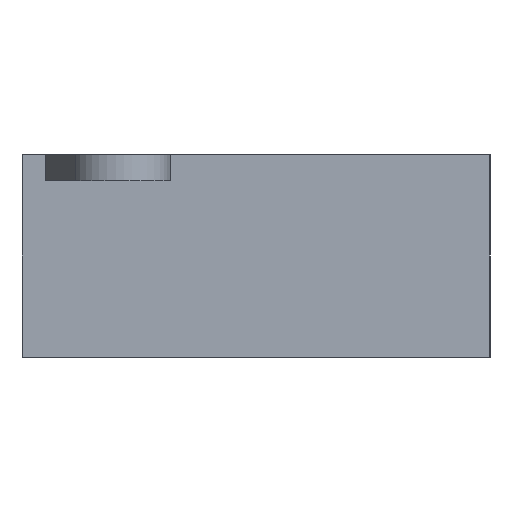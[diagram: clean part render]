
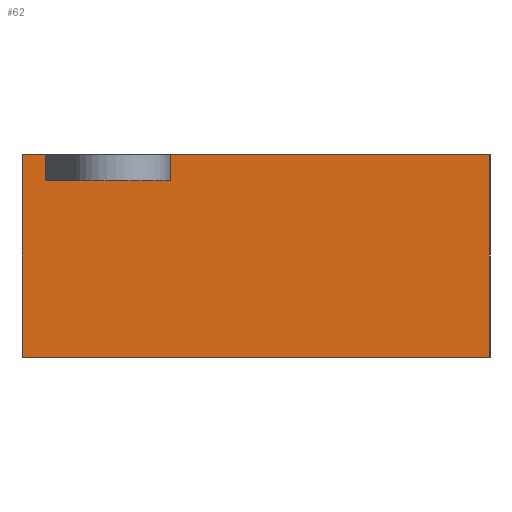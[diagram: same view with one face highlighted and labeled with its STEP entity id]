
A CAD part, left-side view. The second image highlights one B-rep face of the part: STEP entity #62.
In plain terms, the highlighted planar face has unit normal (-1, 0, 0).
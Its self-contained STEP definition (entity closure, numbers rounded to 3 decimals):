
#62 = ADVANCED_FACE( '', ( #124 ), #125, .T. );
#124 = FACE_OUTER_BOUND( '', #185, .T. );
#125 = PLANE( '', #186 );
#185 = EDGE_LOOP( '', ( #296, #297, #298, #299, #300, #301, #302, #303 ) );
#186 = AXIS2_PLACEMENT_3D( '', #304, #305, #306 );
#296 = ORIENTED_EDGE( '', *, *, #387, .F. );
#297 = ORIENTED_EDGE( '', *, *, #393, .T. );
#298 = ORIENTED_EDGE( '', *, *, #372, .T. );
#299 = ORIENTED_EDGE( '', *, *, #396, .F. );
#300 = ORIENTED_EDGE( '', *, *, #357, .F. );
#301 = ORIENTED_EDGE( '', *, *, #364, .T. );
#302 = ORIENTED_EDGE( '', *, *, #390, .T. );
#303 = ORIENTED_EDGE( '', *, *, #397, .F. );
#304 = CARTESIAN_POINT( '', ( 5.87, 17.66, -36.51 ) );
#305 = DIRECTION( '', ( -1., 0., 0. ) );
#306 = DIRECTION( '', ( 0., -1., 0. ) );
#357 = EDGE_CURVE( '', #419, #415, #421, .T. );
#364 = EDGE_CURVE( '', #419, #430, #432, .T. );
#372 = EDGE_CURVE( '', #446, #443, #447, .T. );
#387 = EDGE_CURVE( '', #466, #462, #468, .T. );
#390 = EDGE_CURVE( '', #430, #470, #472, .T. );
#393 = EDGE_CURVE( '', #466, #446, #476, .T. );
#396 = EDGE_CURVE( '', #415, #443, #479, .T. );
#397 = EDGE_CURVE( '', #462, #470, #480, .T. );
#415 = VERTEX_POINT( '', #503 );
#419 = VERTEX_POINT( '', #509 );
#421 = LINE( '', #512, #513 );
#430 = VERTEX_POINT( '', #523 );
#432 = LINE( '', #526, #527 );
#443 = VERTEX_POINT( '', #542 );
#446 = VERTEX_POINT( '', #546 );
#447 = LINE( '', #547, #548 );
#462 = VERTEX_POINT( '', #569 );
#466 = VERTEX_POINT( '', #575 );
#468 = LINE( '', #578, #579 );
#470 = VERTEX_POINT( '', #581 );
#472 = LINE( '', #584, #585 );
#476 = LINE( '', #589, #590 );
#479 = LINE( '', #593, #594 );
#480 = LINE( '', #595, #596 );
#503 = CARTESIAN_POINT( '', ( 5.87, 17.66, 0. ) );
#509 = CARTESIAN_POINT( '', ( 5.87, 17.66, -36.51 ) );
#512 = CARTESIAN_POINT( '', ( 5.87, 17.66, -36.51 ) );
#513 = VECTOR( '', #611, 1000. );
#523 = CARTESIAN_POINT( '', ( 5.87, -66.86, -36.51 ) );
#526 = CARTESIAN_POINT( '', ( 5.87, 17.66, -36.51 ) );
#527 = VECTOR( '', #620, 1000. );
#542 = CARTESIAN_POINT( '', ( 5.87, 13.49, 0. ) );
#546 = CARTESIAN_POINT( '', ( 5.87, 13.49, -4.7 ) );
#547 = CARTESIAN_POINT( '', ( 5.87, 13.49, -4.7 ) );
#548 = VECTOR( '', #626, 1000. );
#569 = CARTESIAN_POINT( '', ( 5.87, -9.11, 0. ) );
#575 = CARTESIAN_POINT( '', ( 5.87, -9.11, -4.7 ) );
#578 = CARTESIAN_POINT( '', ( 5.87, -9.11, -4.7 ) );
#579 = VECTOR( '', #642, 1000. );
#581 = CARTESIAN_POINT( '', ( 5.87, -66.86, 0. ) );
#584 = CARTESIAN_POINT( '', ( 5.87, -66.86, -36.51 ) );
#585 = VECTOR( '', #644, 1000. );
#589 = CARTESIAN_POINT( '', ( 5.87, -9.11, -4.7 ) );
#590 = VECTOR( '', #648, 1000. );
#593 = CARTESIAN_POINT( '', ( 5.87, 17.66, 0. ) );
#594 = VECTOR( '', #652, 1000. );
#595 = CARTESIAN_POINT( '', ( 5.87, 17.66, 0. ) );
#596 = VECTOR( '', #653, 1000. );
#611 = DIRECTION( '', ( 0., 0., 1. ) );
#620 = DIRECTION( '', ( 0., -1., 0. ) );
#626 = DIRECTION( '', ( 0., 0., 1. ) );
#642 = DIRECTION( '', ( 0., 0., 1. ) );
#644 = DIRECTION( '', ( 0., 0., 1. ) );
#648 = DIRECTION( '', ( 0., 1., 0. ) );
#652 = DIRECTION( '', ( 0., -1., 0. ) );
#653 = DIRECTION( '', ( 0., -1., 0. ) );
